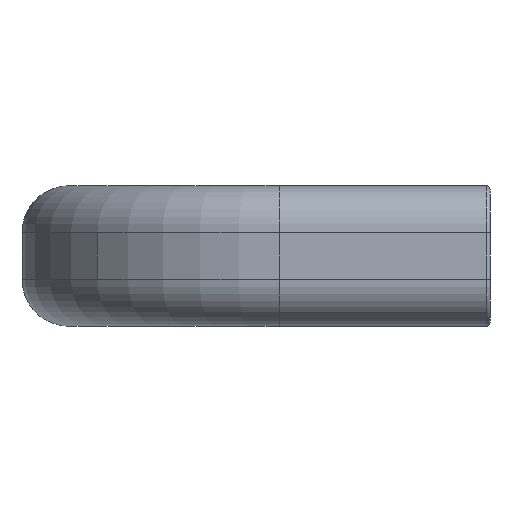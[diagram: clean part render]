
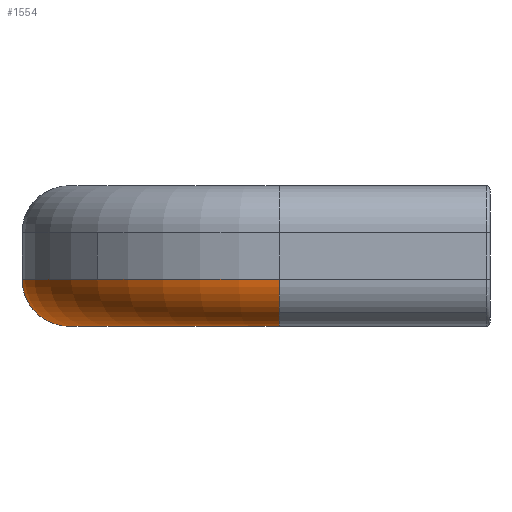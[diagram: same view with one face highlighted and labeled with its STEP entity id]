
A CAD part, left-side view. The second image highlights one B-rep face of the part: STEP entity #1554.
In plain terms, the highlighted toroidal (fillet/blend) face has major radius 18 mm and minor radius 4 mm.
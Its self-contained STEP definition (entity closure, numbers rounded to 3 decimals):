
#373=CARTESIAN_POINT('',(-122.172,18.,-4.828));
#374=VERTEX_POINT('',#373);
#382=CARTESIAN_POINT('',(-125.0,18.,-6.));
#383=VERTEX_POINT('',#382);
#390=CARTESIAN_POINT('',(-125.0,18.,-2.));
#391=DIRECTION('',(0.0,1.0,0.0));
#392=DIRECTION('',(0.0,0.0,-1.0));
#393=AXIS2_PLACEMENT_3D('',#390,#391,#392);
#394=CIRCLE('',#393,4.);
#395=EDGE_CURVE('',#374,#383,#394,.T.);
#407=CARTESIAN_POINT('',(-127.828,18.,-4.828));
#408=VERTEX_POINT('',#407);
#424=CARTESIAN_POINT('',(-129.0,18.,-2.));
#425=VERTEX_POINT('',#424);
#432=CARTESIAN_POINT('',(-125.0,18.,-2.));
#433=DIRECTION('',(0.0,1.0,0.0));
#434=DIRECTION('',(0.0,0.0,-1.0));
#435=AXIS2_PLACEMENT_3D('',#432,#433,#434);
#436=CIRCLE('',#435,4.);
#437=EDGE_CURVE('',#408,#425,#436,.T.);
#447=CARTESIAN_POINT('',(-122.556,33.556,-2.));
#448=VERTEX_POINT('',#447);
#457=CARTESIAN_POINT('',(-107.,18.,-2.));
#458=DIRECTION('',(0.0,0.0,-1.0));
#459=DIRECTION('',(-1.0,0.0,0.0));
#460=AXIS2_PLACEMENT_3D('',#457,#458,#459);
#461=CIRCLE('',#460,22.0);
#462=EDGE_CURVE('',#425,#448,#461,.T.);
#489=CARTESIAN_POINT('',(-116.899,27.899,-2.));
#490=VERTEX_POINT('',#489);
#504=CARTESIAN_POINT('',(-121.,18.,-2.));
#505=VERTEX_POINT('',#504);
#512=CARTESIAN_POINT('',(-107.,18.,-2.));
#513=DIRECTION('',(0.0,0.0,-1.0));
#514=DIRECTION('',(-1.0,0.0,0.0));
#515=AXIS2_PLACEMENT_3D('',#512,#513,#514);
#516=CIRCLE('',#515,14.);
#517=EDGE_CURVE('',#505,#490,#516,.T.);
#759=CARTESIAN_POINT('',(-107.,36.,-6.));
#760=VERTEX_POINT('',#759);
#776=CARTESIAN_POINT('',(-107.,32.0,-2.));
#777=VERTEX_POINT('',#776);
#784=CARTESIAN_POINT('',(-107.,36.,-2.));
#785=DIRECTION('',(1.0,0.0,0.0));
#786=DIRECTION('',(0.0,0.0,-1.0));
#787=AXIS2_PLACEMENT_3D('',#784,#785,#786);
#788=CIRCLE('',#787,4.);
#789=EDGE_CURVE('',#777,#760,#788,.T.);
#1394=CARTESIAN_POINT('',(-107.,40.,-2.));
#1395=VERTEX_POINT('',#1394);
#1396=CARTESIAN_POINT('',(-107.,36.,-2.));
#1397=DIRECTION('',(1.0,0.0,0.0));
#1398=DIRECTION('',(0.0,0.0,-1.0));
#1399=AXIS2_PLACEMENT_3D('',#1396,#1397,#1398);
#1400=CIRCLE('',#1399,4.);
#1401=EDGE_CURVE('',#760,#1395,#1400,.T.);
#1513=CARTESIAN_POINT('',(-107.,18.,-2.));
#1514=DIRECTION('',(0.0,0.0,-1.0));
#1515=DIRECTION('',(-1.0,0.0,0.0));
#1516=AXIS2_PLACEMENT_3D('',#1513,#1514,#1515);
#1517=TOROIDAL_SURFACE('',#1516,18.,4.);
#1518=CARTESIAN_POINT('',(-125.0,18.,-2.));
#1519=DIRECTION('',(0.0,1.0,0.0));
#1520=DIRECTION('',(0.0,0.0,-1.0));
#1521=AXIS2_PLACEMENT_3D('',#1518,#1519,#1520);
#1522=CIRCLE('',#1521,4.);
#1523=EDGE_CURVE('',#505,#374,#1522,.T.);
#1524=ORIENTED_EDGE('',*,*,#1523,.T.);
#1525=ORIENTED_EDGE('',*,*,#395,.T.);
#1526=CARTESIAN_POINT('',(-125.0,18.,-2.));
#1527=DIRECTION('',(0.0,1.0,0.0));
#1528=DIRECTION('',(0.0,0.0,-1.0));
#1529=AXIS2_PLACEMENT_3D('',#1526,#1527,#1528);
#1530=CIRCLE('',#1529,4.);
#1531=EDGE_CURVE('',#383,#408,#1530,.T.);
#1532=ORIENTED_EDGE('',*,*,#1531,.T.);
#1533=ORIENTED_EDGE('',*,*,#437,.T.);
#1534=ORIENTED_EDGE('',*,*,#462,.T.);
#1535=CARTESIAN_POINT('',(-107.,18.,-2.));
#1536=DIRECTION('',(0.0,0.0,-1.0));
#1537=DIRECTION('',(-1.0,0.0,0.0));
#1538=AXIS2_PLACEMENT_3D('',#1535,#1536,#1537);
#1539=CIRCLE('',#1538,22.0);
#1540=EDGE_CURVE('',#448,#1395,#1539,.T.);
#1541=ORIENTED_EDGE('',*,*,#1540,.T.);
#1542=ORIENTED_EDGE('',*,*,#1401,.F.);
#1543=ORIENTED_EDGE('',*,*,#789,.F.);
#1544=CARTESIAN_POINT('',(-107.,18.,-2.));
#1545=DIRECTION('',(0.0,0.0,-1.0));
#1546=DIRECTION('',(-1.0,0.0,0.0));
#1547=AXIS2_PLACEMENT_3D('',#1544,#1545,#1546);
#1548=CIRCLE('',#1547,14.);
#1549=EDGE_CURVE('',#490,#777,#1548,.T.);
#1550=ORIENTED_EDGE('',*,*,#1549,.F.);
#1551=ORIENTED_EDGE('',*,*,#517,.F.);
#1552=EDGE_LOOP('',(#1524,#1525,#1532,#1533,#1534,#1541,#1542,#1543,#1550,#1551));
#1553=FACE_OUTER_BOUND('',#1552,.T.);
#1554=ADVANCED_FACE('',(#1553),#1517,.T.);
